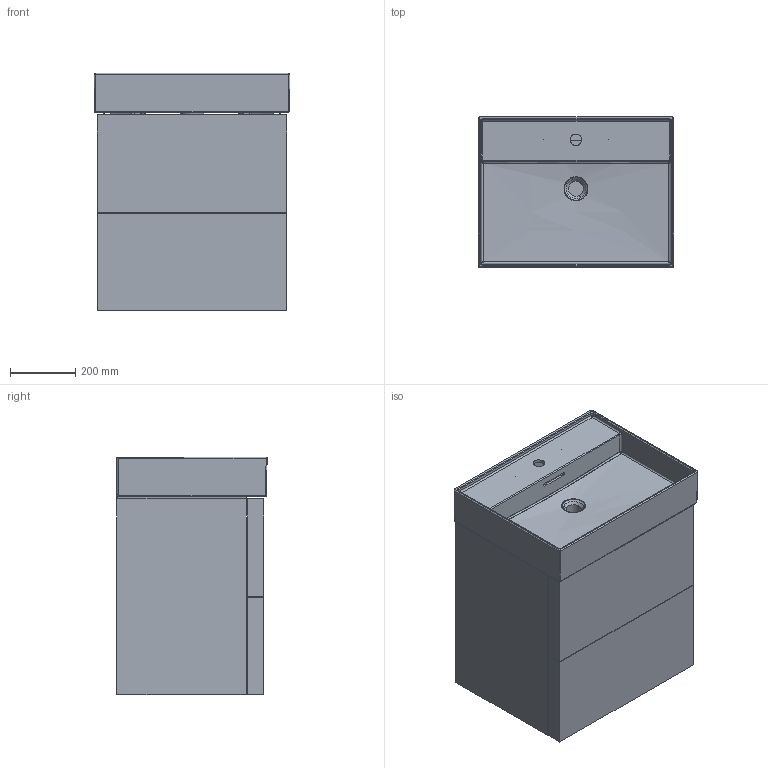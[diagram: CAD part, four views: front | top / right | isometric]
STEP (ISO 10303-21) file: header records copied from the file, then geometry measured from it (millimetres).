
FILE_DESCRIPTION(/* description */ (''),/* implementation_level */ '2;1');
FILE_NAME(/* name */ 'C:\Users\User33\Desktop\Kartell R\3D01_407569.stp',/* time_stamp */ '2018-05-15T09:28:01+02:00',/* author */ ('User33'),/* organization */ (''),/* preprocessor_version */ 'ST-DEVELOPER v16.13',/* originating_system */ 'Autodesk Inventor 2018',/* authorisation */ '');
FILE_SCHEMA (('AUTOMOTIVE_DESIGN { 1 0 10303 214 3 1 1 }'));
Products named in the file (39): 3D01_407569; 3D01_407569_1_1; 3D01_407569_1; 3D01_407569_1_2; 3D01_407569_2; 3D01_407569_3; 3D01_407569_4; 3D01_407569_5; 3D01_407569_6; 3D01_407569_7; 3D01_407569_8; 3D01_407569_9; 3D01_407569_10; 3D01_407569_11; 3D01_407569_12; 3D01_407569_13; 3D01_407569_14; 3D01_407569_15; 3D01_407569_16; 3D01_407569_17; 3D01_407569_18; 3D01_407569_19; 3D01_407569_20; 3D01_407569_21; 3D01_407569_22; 3D01_407569_23; 3D01_407569_24; 3D01_407569_25; 3D01_407569_26; 3D01_407569_27; 3D01_407569_28; 3D01_407569_29; 3D01_407569_30; 3D01_407569_31; 3D01_407569_32; 3D01_407569_33; 3D01_407569_34; 3D01_407569_35; 3D01_407569_36
Assembly tree (38 placements, depth 2):
  3D01_407569
    3D01_407569_1_1
    3D01_407569_1
    3D01_407569_1_2
    3D01_407569_2
    3D01_407569_3
    3D01_407569_4
    3D01_407569_5
    3D01_407569_6
    3D01_407569_7
    3D01_407569_8
    3D01_407569_9
    3D01_407569_10
    3D01_407569_11
    3D01_407569_12
    3D01_407569_13
    3D01_407569_14
    3D01_407569_15
    3D01_407569_16
    3D01_407569_17
    3D01_407569_18
    3D01_407569_19
    3D01_407569_20
    3D01_407569_21
    3D01_407569_22
    3D01_407569_23
    3D01_407569_24
    3D01_407569_25
    3D01_407569_26
    3D01_407569_27
    3D01_407569_28
    3D01_407569_29
    3D01_407569_30
    3D01_407569_31
    3D01_407569_32
    3D01_407569_33
    3D01_407569_34
    3D01_407569_35
    3D01_407569_36
Bounding box: 599.89 x 459.95 x 728 mm (x, y, z)
Volume: 35405490.9 mm3; surface area: 5872163.3 mm2
Topology: 37 solids, 379 shells, 1388 faces, 4357 edges, 3407 vertices
Faces by surface type: plane 839, cylinder 368, bspline 135, sphere 24, torus 13, cone 9
Full cylindrical faces by diameter (mm): 2.5 x4, 3 x2, 4 x12, 4.1 x4, 5.1 x4, 6 x12, 7.2 x4, 10 x4, 12 x4, 12.5 x4
Entity records: 119873 total; most frequent: CARTESIAN_POINT 80498, DIRECTION 7580, ORIENTED_EDGE 7005, EDGE_CURVE 4281, VERTEX_POINT 3403, LINE 2642, VECTOR 2642, AXIS2_PLACEMENT_3D 2469
